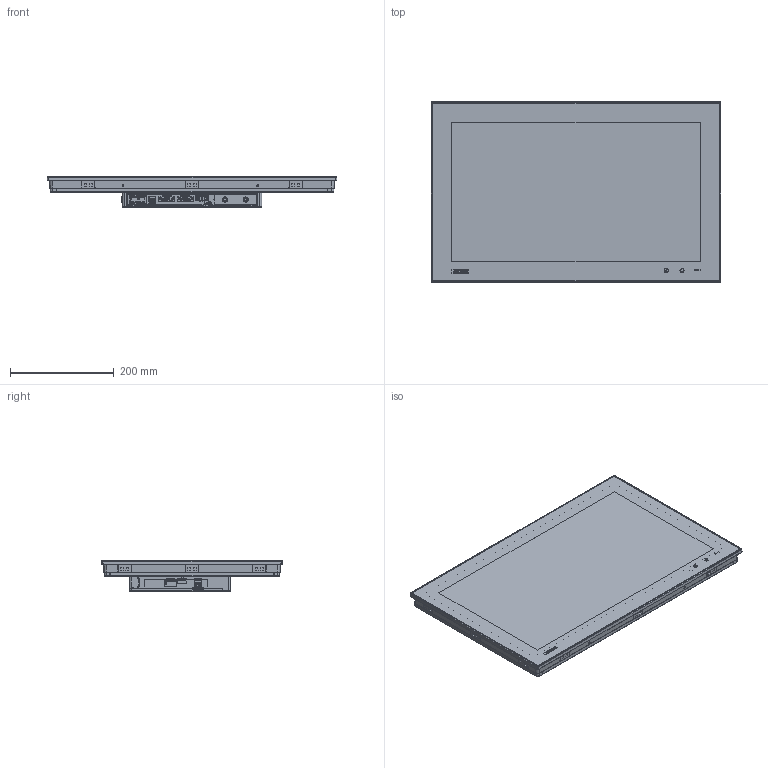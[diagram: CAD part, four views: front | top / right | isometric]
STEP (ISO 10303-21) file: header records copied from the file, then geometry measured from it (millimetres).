
FILE_DESCRIPTION (( 'STEP AP214' ), '1' );
FILE_NAME ('G8021-001-01.STEP', '2023-09-07T09:38:54', ( '' ), ( '' ), 'SwSTEP 2.0', 'SolidWorks 2022', '' );
FILE_SCHEMA (( 'AUTOMOTIVE_DESIGN' ));
Products named in the file (1): G8021-001-01
Bounding box: 558.4 x 349.8 x 60.3 mm (x, y, z)
Volume: 7076503.6 mm3; surface area: 593798.1 mm2
Topology: 1 solids, 41 shells, 7075 faces, 18251 edges, 12068 vertices
Faces by surface type: plane 5383, cylinder 756, bspline 703, cone 180, torus 53
Entity records: 314574 total; most frequent: CARTESIAN_POINT 151241, ORIENTED_EDGE 36480, DIRECTION 27886, EDGE_CURVE 18240, VECTOR 13388, LINE 13388, VERTEX_POINT 12068, EDGE_LOOP 8040
